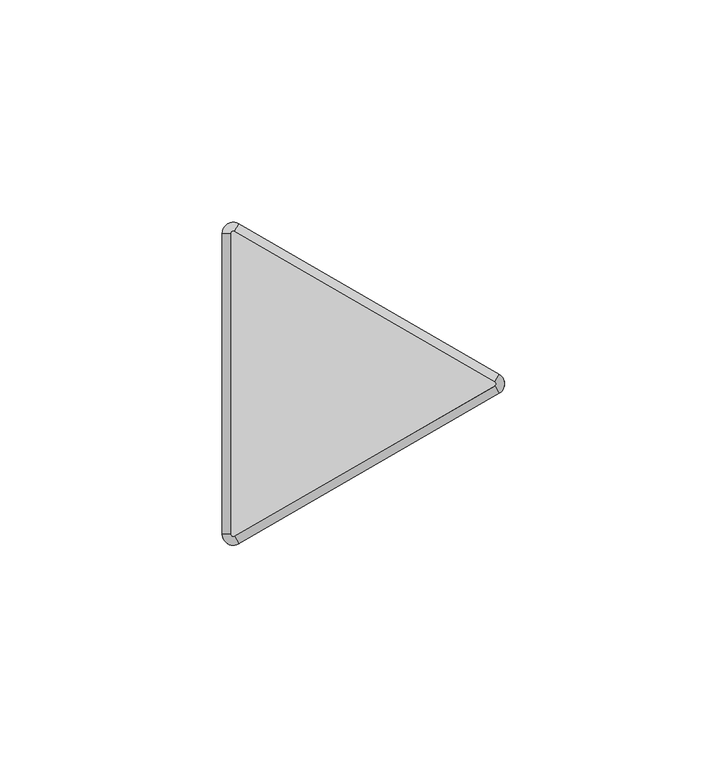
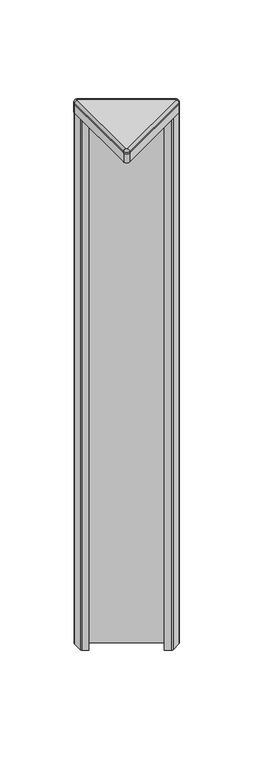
"""IFC4 building model written with IfcOpenShell, lengths in millimetres: furniture geometry, Steelcase - Answer Solution - Panel - 120deg Change-of-Height Trim - Thin : V Corner - 18H for 78H App."""

from ifc_helpers import new_model, si_unit, point, frame, frame_2d, origin, place, context, project, spatial, polyline, circle_curve, ellipse_curve, trimmed, segment, composite_curve, outline, extrude, source, transform, mapped, element, save
from ifc_brep_helpers import plane_surface, cylinder_surface, revolved_surface, advanced_brep


def furniture_1d21b67c(model_context):
    return source(origin(), model_context, "Body", "SolidModel", [
        advanced_brep(
        [(-10.518645, -37.3335529, 1985.6628978), (-14.2052101, -35.2051135, 1985.6628978), (-14.2052101, -35.2051135, 1984.7164663), (-10.518645, -37.3335529, 1984.7164663), (-11.46175, -35.7000471, 1987.55), (-12.319, -35.2051135, 1987.55), (-11.46175, -35.7000471, 1984.7164663), (-12.319, -35.2051135, 1984.7164663), (48.0429908, -3.5229767, 1984.7164663), (48.0429908, -3.5229767, 1985.6628978), (47.0998858, -1.8894709, 1987.55), (47.0998858, -1.8894709, 1984.7164663), (48.0429908, 0.733902, 1985.6628978), (48.0429908, 0.733902, 1984.7164663), (47.0998858, -0.8996038, 1987.55), (47.0998858, -0.8996038, 1984.7164663), (-10.518645, 34.5444782, 1984.7164663), (-14.2052101, 32.4160388, 1984.7164663), (-11.46175, 32.9109723, 1984.7164663), (-12.319, 32.4160388, 1984.7164663), (-10.518645, 34.5444782, 1985.6628978), (-11.46175, 32.9109723, 1987.55), (-14.2052101, 32.4160388, 1985.6628978), (-12.319, 32.4160388, 1987.55)],
        [
            (0, 1, circle_curve(frame((-11.7475, -35.2051135, 1985.6628978), z_axis=(0.0, 0.0, -1.0), x_axis=(-1.0, 0.0, 0.0)), 2.4577101)),
            (1, 2),
            (2, 3, circle_curve(frame((-11.7475, -35.2051135, 1984.7164663), z_axis=(0.0, 0.0, 1.0), x_axis=(-1.0, 0.0, 0.0)), 2.4577101)),
            (3, 0),
            (4, 5, circle_curve(frame((-11.7475, -35.2051135, 1987.55), z_axis=(0.0, 0.0, -1.0), x_axis=(-1.0, 0.0, 0.0)), 0.5715)),
            (5, 1, circle_curve(frame((-12.3181076, -35.2051135, 1985.6628978), z_axis=(0.0, -1.0, 0.0), x_axis=(1.0, 0.0, 0.0)), 1.8871024)),
            (0, 4, circle_curve(frame((-11.4621962, -35.6992743, 1985.6628978), z_axis=(-0.8660254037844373, -0.5000000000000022, 0.0), x_axis=(-0.5000000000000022, 0.8660254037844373, 0.0)), 1.8871024)),
            (6, 7, circle_curve(frame((-11.7475, -35.2051135, 1984.7164663), z_axis=(0.0, 0.0, -1.0), x_axis=(-1.0, 0.0, 0.0)), 0.5715)),
            (7, 5),
            (4, 6),
            (3, 8),
            (8, 9),
            (9, 0),
            (9, 10, circle_curve(frame((47.0994396, -1.8886981, 1985.6628978), z_axis=(-0.8660254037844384, -0.5000000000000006, 0.0), x_axis=(-0.5000000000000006, 0.8660254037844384, 0.0)), 1.8871024)),
            (10, 4),
            (10, 11),
            (11, 6),
            (12, 9, circle_curve(frame((46.8141358, -1.3945374, 1985.6628978), z_axis=(0.0, 0.0, -1.0), x_axis=(0.4999999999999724, -0.8660254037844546, 0.0)), 2.4577101)),
            (8, 13, circle_curve(frame((46.8141358, -1.3945374, 1984.7164663), z_axis=(0.0, 0.0, 1.0), x_axis=(0.4999999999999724, -0.8660254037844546, 0.0)), 2.4577101)),
            (13, 12),
            (14, 10, circle_curve(frame((46.8141358, -1.3945374, 1987.55), z_axis=(0.0, 0.0, -1.0), x_axis=(0.4999999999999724, -0.8660254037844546, 0.0)), 0.5715)),
            (12, 14, circle_curve(frame((47.0994396, -0.9003766, 1985.6628978), z_axis=(0.8660254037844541, -0.49999999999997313, 0.0), x_axis=(-0.49999999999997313, -0.8660254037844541, 0.0)), 1.8871024)),
            (15, 11, circle_curve(frame((46.8141358, -1.3945374, 1984.7164663), z_axis=(0.0, 0.0, -1.0), x_axis=(0.4999999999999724, -0.8660254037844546, 0.0)), 0.5715)),
            (14, 15),
            (16, 13),
            (2, 17),
            (17, 16, circle_curve(frame((-11.7475, 32.4160388, 1984.7164663), z_axis=(0.0, 0.0, -1.0), x_axis=(0.500000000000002, 0.8660254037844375, 0.0)), 2.4577101)),
            (15, 18),
            (18, 19, circle_curve(frame((-11.7475, 32.4160388, 1984.7164663), z_axis=(0.0, 0.0, 1.0), x_axis=(0.500000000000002, 0.8660254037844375, 0.0)), 0.5715)),
            (19, 7),
            (16, 20),
            (20, 12),
            (20, 21, circle_curve(frame((-11.4621962, 32.9101995, 1985.6628978), z_axis=(0.8660254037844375, -0.5000000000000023, 0.0), x_axis=(-0.5000000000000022, -0.8660254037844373, 0.0)), 1.8871024)),
            (21, 14),
            (21, 18),
            (22, 20, circle_curve(frame((-11.7475, 32.4160388, 1985.6628978), z_axis=(0.0, 0.0, -1.0), x_axis=(0.500000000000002, 0.8660254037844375, 0.0)), 2.4577101)),
            (17, 22),
            (23, 21, circle_curve(frame((-11.7475, 32.4160388, 1987.55), z_axis=(0.0, 0.0, -1.0), x_axis=(0.500000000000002, 0.8660254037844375, 0.0)), 0.5715)),
            (22, 23, circle_curve(frame((-12.3181076, 32.4160388, 1985.6628978), z_axis=(0.0, 1.0, 0.0), x_axis=(1.0, 0.0, 0.0)), 1.8871024)),
            (23, 19),
            (1, 22),
            (5, 23),
        ],
        [
            cylinder_surface(frame((-11.7475, -35.2051135, 0.0), z_axis=(0.0, 0.0, 1.0), x_axis=(-1.0, 0.0, 0.0)), 2.4577101),
            revolved_surface(trimmed(ellipse_curve(frame((-12.3181076, -35.2051135, 1985.6628978), z_axis=(0.0, 1.0, 0.0), x_axis=(1.0, 0.0, 0.0)), 1.8871024, 1.8871024), [point((-14.2052101, -35.2051135, 1985.6628978))], [point((-12.319, -35.2051135, 1987.55))], True, "CARTESIAN"), (-11.7475, -35.2051135, 0.0), (0.0, 0.0, 1.0)),
            revolved_surface(polyline([(-12.319, -35.2051135, 1987.55), (-12.319, -35.2051135, 1984.7164663)]), (-11.7475, -35.2051135, 0.0), (0.0, 0.0, 1.0)),
            plane_surface(frame((-10.518645, -37.3335529, 1984.7164663), z_axis=(0.5000000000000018, -0.8660254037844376, 0.0), x_axis=(0.8660254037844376, 0.5000000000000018, 0.0))),
            cylinder_surface(frame((-11.4621962, -35.6992743, 1985.6628978), z_axis=(-0.8660254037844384, -0.5000000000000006, 0.0), x_axis=(-0.5000000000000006, 0.8660254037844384, 0.0)), 1.8871024),
            plane_surface(frame((-11.46175, -35.7000471, 1987.55), z_axis=(-0.5000000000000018, 0.8660254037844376, 0.0), x_axis=(0.8660254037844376, 0.5000000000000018, 0.0))),
            cylinder_surface(frame((46.8141358, -1.3945374, 0.0), z_axis=(0.0, 0.0, 1.0), x_axis=(0.4999999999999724, -0.8660254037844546, 0.0)), 2.4577101),
            revolved_surface(trimmed(ellipse_curve(frame((47.0994396, -1.8886981, 1985.6628978), z_axis=(-0.8660254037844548, -0.499999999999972, 0.0), x_axis=(-0.499999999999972, 0.8660254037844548, 0.0)), 1.8871024, 1.8871024), [point((48.0429908, -3.5229767, 1985.6628978))], [point((47.0998858, -1.8894709, 1987.55))], True, "CARTESIAN"), (46.8141358, -1.3945374, 0.0), (0.0, 0.0, 1.0)),
            revolved_surface(polyline([(47.09988579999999, -1.8894709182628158, 1987.55), (47.09988579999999, -1.8894709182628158, 1984.7164663)]), (46.8141358, -1.3945374, 0.0), (0.0, 0.0, 1.0)),
            plane_surface(frame((47.0998858, -0.8996038, 1984.7164663), z_axis=(0.0, 0.0, -1.0), x_axis=(-0.8660254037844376, 0.5000000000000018, 0.0))),
            plane_surface(frame((48.0429908, 0.733902, 1984.7164663), z_axis=(0.5000000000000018, 0.8660254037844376, 0.0), x_axis=(-0.8660254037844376, 0.5000000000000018, 0.0))),
            cylinder_surface(frame((47.0994396, -0.9003766, 1985.6628978), z_axis=(0.8660254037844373, -0.5000000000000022, 0.0), x_axis=(-0.5000000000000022, -0.8660254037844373, 0.0)), 1.8871024),
            plane_surface(frame((47.0998858, -0.8996038, 1987.55), z_axis=(-0.5000000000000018, -0.8660254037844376, 0.0), x_axis=(-0.8660254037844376, 0.5000000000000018, 0.0))),
            cylinder_surface(frame((-11.7475, 32.4160388, 0.0), z_axis=(0.0, 0.0, 1.0), x_axis=(0.500000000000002, 0.8660254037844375, 0.0)), 2.4577101),
            revolved_surface(trimmed(ellipse_curve(frame((-11.4621962, 32.9101995, 1985.6628978), z_axis=(0.866025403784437, -0.5000000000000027, 0.0), x_axis=(-0.5000000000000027, -0.866025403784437, 0.0)), 1.8871024, 1.8871024), [point((-10.518645, 34.5444782, 1985.6628978))], [point((-11.46175, 32.9109723, 1987.55))], True, "CARTESIAN"), (-11.7475, 32.4160388, 0.0), (0.0, 0.0, 1.0)),
            revolved_surface(polyline([(-11.461749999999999, 32.91097231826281, 1987.55), (-11.461749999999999, 32.91097231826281, 1984.7164663)]), (-11.7475, 32.4160388, 0.0), (0.0, 0.0, 1.0)),
            plane_surface(frame((-14.2052101, 32.4160388, 1984.7164663), z_axis=(-1.0, 0.0, 0.0), x_axis=(0.0, -1.0, 0.0))),
            cylinder_surface(frame((-12.3181076, 32.4160388, 1985.6628978), z_axis=(0.0, 1.0, 0.0), x_axis=(1.0, 0.0, 0.0)), 1.8871024),
            plane_surface(frame((-12.319, 32.4160388, 1987.55), z_axis=(1.0, 0.0, 0.0), x_axis=(0.0, -1.0, 0.0))),
        ],
        [
            (0, [[1, 2, 3, 4]]),
            (1, [[5, 6, -1, 7]]),
            (2, [[8, 9, -5, 10]]),
            (3, [[-4, 11, 12, 13]]),
            (4, [[-7, -13, 14, 15]]),
            (5, [[-10, -15, 16, 17]]),
            (6, [[18, -12, 19, 20]]),
            (7, [[21, -14, -18, 22]]),
            (8, [[23, -16, -21, 24]]),
            (9, [[25, -19, -11, -3, 26, 27], [-8, -17, -23, 28, 29, 30]]),
            (10, [[-20, -25, 31, 32]]),
            (11, [[-22, -32, 33, 34]]),
            (12, [[-24, -34, 35, -28]]),
            (13, [[36, -31, -27, 37]]),
            (14, [[38, -33, -36, 39]]),
            (15, [[-29, -35, -38, 40]]),
            (16, [[-37, -26, -2, 41]]),
            (17, [[-39, -41, -6, 42]]),
            (18, [[-40, -42, -9, -30]]),
        ],
    ),
        extrude(outline(composite_curve([segment(trimmed(circle_curve(frame_2d((46.8261011, -1.3945374)), 0.5655173), [point((47.1088598, -0.904785))], [point((47.1088598, -1.8842897))], False, "CARTESIAN"), True, "CONTINUOUS"), segment(polyline([(47.1088598, -1.8842897), (-11.4505119, -35.6935587)]), True, "CONTINUOUS"), segment(trimmed(circle_curve(frame_2d((-11.7400079, -35.1921369)), 0.5789921), [point((-11.4505119, -35.6935587))], [point((-12.319, -35.1921369))], False, "CARTESIAN"), True, "CONTINUOUS"), segment(polyline([(-12.319, -35.1921369), (-12.319, 32.3985888)]), True, "CONTINUOUS"), segment(trimmed(circle_curve(frame_2d((-11.7374252, 32.3985888)), 0.5815748), [point((-12.319, 32.3985888))], [point((-11.4466378, 32.9022473))], False, "CARTESIAN"), True, "CONTINUOUS"), segment(polyline([(-11.4466378, 32.9022473), (47.1088598, -0.904785)]), True, "CONTINUOUS")], self_intersect=False)), frame((0.0, 0.0, 1984.7164663), z_axis=(0.0, 0.0, 1.0), x_axis=(1.0, 0.0, 0.0)), (0.0, 0.0, 1.0), 2.8335337),
        extrude(outline(composite_curve([segment(trimmed(circle_curve(frame_2d((47.9608454, -1.3945374)), 1.2935425), [point((48.6076166, -0.2742967))], [point((48.6076166, -2.514778))], False, "CARTESIAN"), True, "CONTINUOUS"), segment(polyline([(48.6076166, -2.514778), (41.722656, -6.4898119)]), True, "CONTINUOUS"), segment(trimmed(circle_curve(frame_2d((41.0991304, -5.4098338)), 1.2470513), [point((41.722656, -6.4898119))], [point((40.4756048, -6.4898119))], False, "CARTESIAN"), True, "CONTINUOUS"), segment(polyline([(40.4756048, -6.4898119), (36.3239304, -4.0928416), (36.7811304, -3.300948), (41.0991304, -5.7939464), (47.3502407, -2.1848662)]), True, "CONTINUOUS"), segment(trimmed(circle_curve(frame_2d((46.8939441, -1.3945374)), 0.9125932), [point((47.3502407, -2.1848662))], [point((47.3502407, -0.6042085))], True, "CARTESIAN"), True, "CONTINUOUS"), segment(polyline([(47.3502407, -0.6042085), (-11.3312768, 33.2755814)]), True, "CONTINUOUS"), segment(trimmed(circle_curve(frame_2d((-11.7875179, 32.4853487)), 0.9124821), [point((-11.3312768, 33.2755814))], [point((-12.7, 32.4853487))], True, "CARTESIAN"), True, "CONTINUOUS"), segment(polyline([(-12.7, 32.4853487), (-12.7, 25.266996), (-8.382, 22.7739975), (-8.8392, 21.9821039), (-12.9583282, 24.3602837)]), True, "CONTINUOUS"), segment(trimmed(circle_curve(frame_2d((-12.3022565, 25.4966333)), 1.3121435), [point((-12.9583282, 24.3602837))], [point((-13.6144, 25.4966333))], False, "CARTESIAN"), True, "CONTINUOUS"), segment(polyline([(-13.6144, 25.4966333), (-13.6144, 33.3957138)]), True, "CONTINUOUS"), segment(trimmed(circle_curve(frame_2d((-12.3131174, 33.3957138)), 1.3012826), [point((-13.6144, 33.3957138))], [point((-11.6624761, 34.5226576))], False, "CARTESIAN"), True, "CONTINUOUS"), segment(polyline([(-11.6624761, 34.5226576), (48.6076166, -0.2742967)]), True, "CONTINUOUS")], self_intersect=False)), frame((0.0, 0.0, 1530.35), z_axis=(0.0, 0.0, 1.0), x_axis=(1.0, 0.0, 0.0)), (0.0, 0.0, 1.0), 447.04),
        extrude(outline(composite_curve([segment(trimmed(circle_curve(frame_2d((46.8140443, -1.3945374)), 2.4577558), [point((48.0429222, 0.7339416))], [point((48.0429222, -3.5230163))], False, "CARTESIAN"), True, "CONTINUOUS"), segment(polyline([(48.0429222, -3.5230163), (-10.518058, -37.333214)]), True, "CONTINUOUS"), segment(trimmed(circle_curve(frame_2d((-11.7471087, -35.2044357)), 2.4581014), [point((-10.518058, -37.333214))], [point((-14.2052101, -35.2044357))], False, "CARTESIAN"), True, "CONTINUOUS"), segment(polyline([(-14.2052101, -35.2044357), (-14.2052101, 32.4160388)]), True, "CONTINUOUS"), segment(trimmed(circle_curve(frame_2d((-11.7475, 32.4160388)), 2.4577101), [point((-14.2052101, 32.4160388))], [point((-10.518645, 34.5444782))], False, "CARTESIAN"), True, "CONTINUOUS"), segment(polyline([(-10.518645, 34.5444782), (48.0429222, 0.7339416)]), True, "CONTINUOUS")], self_intersect=False)), frame((0.0, 0.0, 1977.39), z_axis=(0.0, 0.0, 1.0), x_axis=(1.0, 0.0, 0.0)), (0.0, 0.0, 1.0), 7.3264663),
    ])


if __name__ == "__main__":
    model = new_model("IFC4")
    model_context = context("Model", 3, world=origin())
    ifc_project = project(units=[si_unit("LENGTHUNIT", "METRE", prefix="MILLI")], contexts=[model_context])
    site = spatial("IfcSite", under=ifc_project)
    building = spatial("IfcBuilding", under=site)
    placement = place(None, origin())
    furniture_shape = furniture_1d21b67c(model_context)
    element("IfcFurniture", 1, ObjectType="Steelcase - Answer Solution - Panel - 120deg Change-of-Height Trim - Thin : V Corner - 18H for 78H App", at=placement, inside=building, context=model_context, shape_type="MappedRepresentation", body=[
        mapped(furniture_shape, transform((0.0, 0.0, 0.0), x_axis=(1.0, 0.0, 0.0), y_axis=(0.0, 1.0, 0.0), z_axis=(0.0, 0.0, 1.0))),
    ])
    save(model, "model.ifc")
